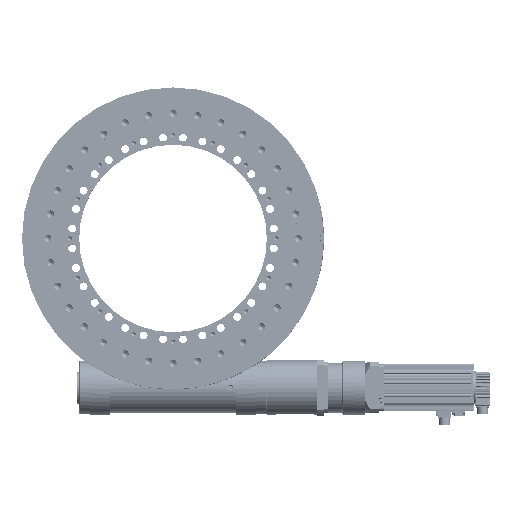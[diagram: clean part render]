
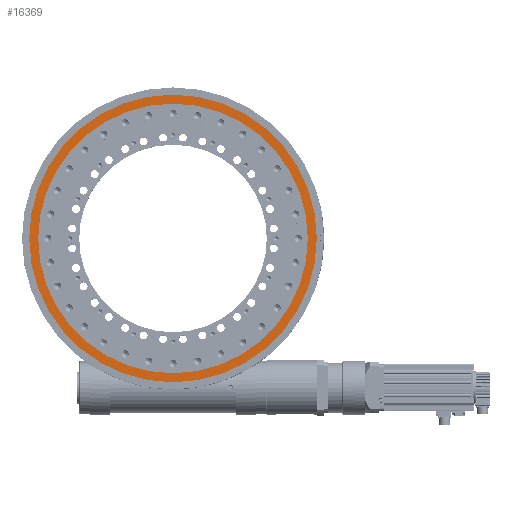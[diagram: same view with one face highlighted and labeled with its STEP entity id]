
A CAD part, top view. The second image highlights one B-rep face of the part: STEP entity #16369.
In plain terms, the highlighted planar face has unit normal (0, 0, 1).
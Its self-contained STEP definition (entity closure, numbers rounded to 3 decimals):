
#10485=FACE_BOUND('',#24510,.T.);
#10486=FACE_BOUND('',#24511,.T.);
#16369=ADVANCED_FACE('',(#10485,#10486),#20983,.T.);
#20983=PLANE('',#67017);
#24510=EDGE_LOOP('',(#33019));
#24511=EDGE_LOOP('',(#33020));
#33019=ORIENTED_EDGE('',*,*,#53959,.T.);
#33020=ORIENTED_EDGE('',*,*,#54559,.F.);
#47724=VERTEX_POINT('',#96627);
#48200=VERTEX_POINT('',#98325);
#53959=EDGE_CURVE('',#47724,#47724,#61896,.T.);
#54559=EDGE_CURVE('',#48200,#48200,#62198,.T.);
#61896=CIRCLE('',#66434,400.);
#62198=CIRCLE('',#67016,375.);
#66434=AXIS2_PLACEMENT_3D('',#96626,#75746,#75747);
#67016=AXIS2_PLACEMENT_3D('',#98324,#77186,#77187);
#67017=AXIS2_PLACEMENT_3D('',#98326,#77188,#77189);
#75746=DIRECTION('',(0.,0.,1.));
#75747=DIRECTION('',(1.,0.,0.));
#77186=DIRECTION('',(0.,0.,1.));
#77187=DIRECTION('',(1.,0.,0.));
#77188=DIRECTION('',(0.,0.,1.));
#77189=DIRECTION('',(-1.,0.,0.));
#96626=CARTESIAN_POINT('',(-37.89,37.448,81.5));
#96627=CARTESIAN_POINT('',(362.11,37.448,81.5));
#98324=CARTESIAN_POINT('',(-37.89,37.448,81.5));
#98325=CARTESIAN_POINT('',(337.11,37.448,81.5));
#98326=CARTESIAN_POINT('',(-37.89,37.448,81.5));
